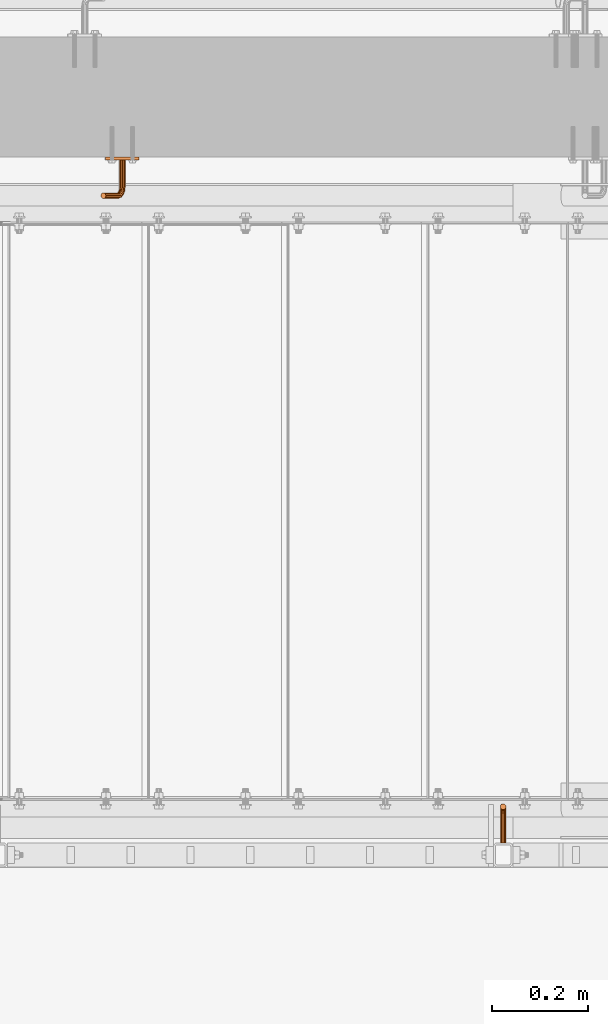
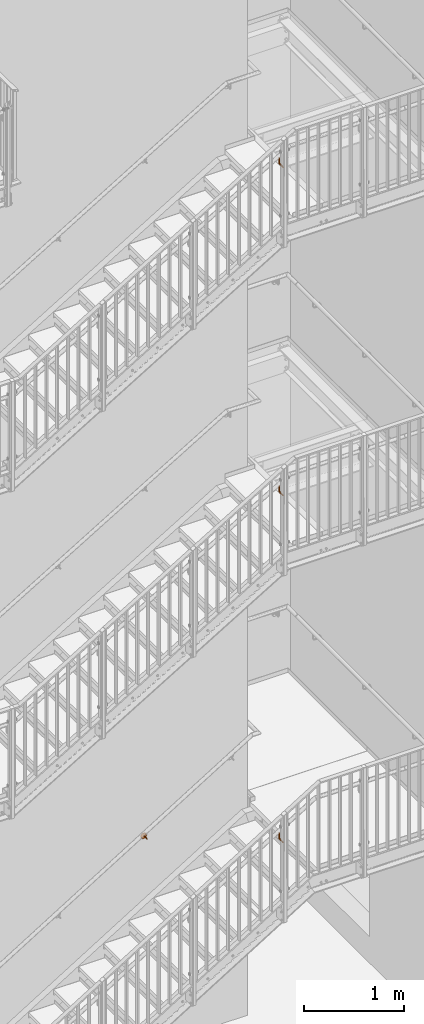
# One storey, part 383 of 410: 4 proxies.
"""IFC2X3 building model written with IfcOpenShell, lengths in millimetres."""

from ifc_helpers import new_model, entity, si_unit, converted_unit, origin_with_axes, place, context, project, spatial, faceted_brep, element, save


model = new_model("IFC2X3")

# Units and contexts
model_context = context("Model", 3, precision=1e-09, world=origin_with_axes())
ifc_project = project(units=[si_unit("LENGTHUNIT", "METRE", prefix="MILLI"), si_unit("AREAUNIT", "SQUARE_METRE"), si_unit("VOLUMEUNIT", "CUBIC_METRE"), converted_unit("PLANEANGLEUNIT", "DEGREE", entity("IfcPlaneAngleMeasure", 0.01745329), si_unit("PLANEANGLEUNIT", "RADIAN"), dimensions=[0, 0, 0, 0, 0, 0, 0])], contexts=[model_context])

# Site, building, storey
site_placement = place(None, origin_with_axes())
site = spatial("IfcSite", under=ifc_project, at=site_placement, Name="mKR Teilneubau & Sanierung BA1 - Ostfildern", CompositionType="ELEMENT")
building_placement = place(site_placement, origin_with_axes())
building = spatial("IfcBuilding", under=site, at=building_placement, Name="Struktur 1", CompositionType="ELEMENT")
storey_placement = place(building_placement, origin_with_axes())
storey = spatial("IfcBuildingStorey", under=building, at=storey_placement, Name="Default Storey", CompositionType="ELEMENT", Elevation=0.0)

# Proxies
proxy_1_placement = place(None, origin_with_axes())
element("IfcBuildingElementProxy", 1, at=proxy_1_placement, inside=storey, ObjectType="-", context=model_context, shape_type="Brep", body=[
    faceted_brep([(1359.805315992, 15430.999999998, 6578.654877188), (1362.001468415, 15430.999999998, 6576.458724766), (1365.001468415, 15430.999999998, 6575.654877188), (1368.001468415, 15430.999999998, 6576.458724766), (1370.197620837, 15430.999999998, 6578.654877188), (1371.001468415, 15430.999999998, 6581.654877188), (1370.197620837, 15430.999999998, 6584.654877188), (1368.001468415, 15430.999999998, 6586.851029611), (1365.001468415, 15430.999999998, 6587.654877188), (1362.001468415, 15430.999999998, 6586.851029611), (1359.805315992, 15430.999999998, 6584.654877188), (1359.001468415, 15430.999999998, 6581.654877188), (1368.001468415, 15487.999999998, 6586.851029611), (1370.197620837, 15487.999999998, 6584.654877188), (1362.001468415, 15487.999999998, 6586.851029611), (1359.805315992, 15487.999999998, 6584.654877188), (1365.001468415, 15487.999999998, 6587.654877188), (1370.197620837, 15493.740251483, 6585.796684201), (1368.001468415, 15492.899820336, 6587.825664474), (1359.001468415, 15487.999999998, 6581.654877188), (1365.001468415, 15492.592201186, 6588.568322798), (1371.001468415, 15487.999999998, 6581.654877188), (1368.001468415, 15497.053687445, 6590.601189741), (1365.001468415, 15496.485281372, 6591.169595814), (1362.001468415, 15492.899820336, 6587.825664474), (1359.805315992, 15493.740251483, 6585.796684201), (1368.001468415, 15499.829212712, 6594.75505685), (1365.001468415, 15499.086554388, 6595.062676), (1371.001468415, 15494.88830178, 6583.025045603), (1370.197620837, 15498.606601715, 6589.04827547), (1370.197620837, 15487.999999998, 6578.654877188), (1368.001468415, 15487.999999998, 6576.458724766), (1365.001468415, 15487.999999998, 6575.654877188), (1362.001468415, 15487.999999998, 6576.458724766), (1359.805315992, 15487.999999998, 6578.654877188), (1359.001468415, 15494.88830178, 6583.025045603), (1362.001468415, 15497.053687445, 6590.601189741), (1362.001468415, 15499.829212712, 6594.75505685), (1362.70536782, 15500.456722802, 6651.67007705), (1362.001468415, 15500.803847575, 6599.654877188), (1365.001468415, 15499.999999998, 6599.654877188), (1365.001468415, 15499.999999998, 6653.049713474), (1369.244109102, 15510.242640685, 6655.598949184), (1367.297569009, 15511.543277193, 6654.429349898), (1365.001468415, 15511.999999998, 6653.049713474), (1362.70536782, 15511.543277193, 6651.67007705), (1360.758827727, 15510.242640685, 6650.500477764), (1359.458191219, 15508.296100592, 6649.718976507), (1359.001468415, 15505.999999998, 6649.44454976), (1359.458191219, 15503.703899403, 6649.718976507), (1360.758827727, 15501.75735931, 6650.500477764), (1367.297569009, 15500.456722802, 6654.429349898), (1369.244109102, 15501.75735931, 6655.598949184), (1370.54474561, 15503.703899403, 6656.380450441), (1371.001468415, 15505.999999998, 6656.654877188), (1370.54474561, 15508.296100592, 6656.380450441), (1359.805315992, 15496.036352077, 6580.253407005), (1359.805315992, 15498.606601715, 6589.04827547), (1359.001468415, 15500.727922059, 6586.926955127), (1368.001468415, 15500.803847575, 6599.654877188), (1370.197620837, 15501.858192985, 6593.914625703), (1370.197620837, 15496.036352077, 6580.253407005), (1371.001468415, 15500.727922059, 6586.926955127), (1368.001468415, 15496.876783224, 6578.224426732), (1365.001468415, 15497.184402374, 6577.481768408), (1362.001468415, 15496.876783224, 6578.224426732), (1359.805315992, 15502.849242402, 6584.805634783), (1359.805315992, 15502.999999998, 6599.654877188), (1359.805315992, 15501.858192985, 6593.914625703), (1362.001468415, 15504.402156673, 6583.252720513), (1359.001468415, 15504.629831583, 6592.766575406), (1359.805315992, 15507.40147018, 6591.618525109), (1370.197620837, 15502.999999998, 6599.654877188), (1371.001468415, 15504.629831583, 6592.766575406), (1370.197620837, 15502.849242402, 6584.805634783), (1368.001468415, 15504.402156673, 6583.252720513), (1365.001468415, 15504.970562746, 6582.68431444), (1362.001468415, 15509.430450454, 6590.778093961), (1359.001468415, 15505.999999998, 6599.654877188), (1365.001468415, 15510.173108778, 6590.470474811), (1359.805315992, 15508.999999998, 6599.654877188), (1362.001468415, 15511.19615242, 6599.654877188), (1371.001468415, 15505.999999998, 6599.654877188), (1370.197620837, 15507.40147018, 6591.618525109), (1368.001468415, 15509.430450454, 6590.778093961), (1365.001468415, 15511.999999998, 6599.654877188), (1368.001468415, 15511.19615242, 6599.654877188), (1370.197620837, 15508.999999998, 6599.654877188)], [[[0, 1, 2, 3, 4, 5, 6, 7, 8, 9, 10, 11]], [[12, 7, 6, 13]], [[9, 14, 15, 10]], [[8, 16, 14, 9]], [[7, 12, 16, 8]], [[12, 13, 17, 18]], [[10, 15, 19, 11]], [[18, 20, 16, 12]], [[13, 6, 5, 21]], [[22, 23, 20, 18]], [[15, 14, 24, 25]], [[14, 16, 20, 24]], [[23, 22, 26, 27]], [[13, 21, 28, 17]], [[18, 17, 29, 22]], [[4, 30, 21, 5]], [[3, 31, 30, 4]], [[2, 32, 31, 3]], [[1, 33, 32, 2]], [[0, 34, 33, 1]], [[11, 19, 34, 0]], [[19, 15, 25, 35]], [[23, 36, 24, 20]], [[27, 37, 36, 23]], [[38, 39, 40]], [[40, 39, 37, 27]], [[41, 38, 40]], [[42, 43, 44, 45, 46, 47, 48, 49, 50, 38, 41, 51, 52, 53, 54, 55]], [[35, 56, 34, 19]], [[35, 25, 57, 58]], [[25, 24, 36, 57]], [[38, 50, 39]], [[27, 26, 59, 40]], [[22, 29, 60, 26]], [[21, 30, 61, 28]], [[17, 28, 62, 29]], [[51, 41, 40]], [[30, 31, 63, 61]], [[31, 32, 64, 63]], [[32, 33, 65, 64]], [[33, 34, 56, 65]], [[56, 35, 58, 66]], [[39, 67, 68, 37]], [[37, 68, 57, 36]], [[50, 67, 39]], [[51, 40, 59]], [[66, 69, 65, 56]], [[66, 58, 70, 71]], [[58, 57, 68, 70]], [[50, 49, 67]], [[26, 60, 72, 59]], [[29, 62, 73, 60]], [[28, 61, 74, 62]], [[52, 51, 59]], [[61, 63, 75, 74]], [[63, 64, 76, 75]], [[64, 65, 69, 76]], [[69, 66, 71, 77]], [[67, 78, 70, 68]], [[49, 78, 67]], [[52, 59, 72]], [[77, 79, 76, 69]], [[77, 71, 80, 81]], [[71, 70, 78, 80]], [[49, 48, 78]], [[60, 73, 82, 72]], [[62, 74, 83, 73]], [[53, 52, 72]], [[74, 75, 84, 83]], [[75, 76, 79, 84]], [[79, 77, 81, 85]], [[45, 44, 85]], [[48, 47, 78]], [[53, 72, 82]], [[85, 86, 84, 79]], [[44, 43, 85]], [[45, 85, 81]], [[46, 81, 80]], [[47, 80, 78]], [[73, 83, 87, 82]], [[54, 53, 82]], [[83, 84, 86, 87]], [[43, 86, 85]], [[46, 45, 81]], [[47, 46, 80]], [[54, 82, 55]], [[43, 42, 86]], [[55, 82, 87]], [[42, 87, 86]], [[42, 55, 87]]]),
])
proxy_2_placement = place(None, origin_with_axes())
element("IfcBuildingElementProxy", 2, at=proxy_2_placement, inside=storey, ObjectType="-", context=model_context, shape_type="Brep", body=[
    faceted_brep([(1359.805315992, 15430.999999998, 2567.245572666), (1362.001468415, 15430.999999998, 2565.049420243), (1365.001468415, 15430.999999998, 2564.245572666), (1368.001468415, 15430.999999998, 2565.049420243), (1370.197620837, 15430.999999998, 2567.245572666), (1371.001468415, 15430.999999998, 2570.245572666), (1370.197620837, 15430.999999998, 2573.245572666), (1368.001468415, 15430.999999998, 2575.441725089), (1365.001468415, 15430.999999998, 2576.245572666), (1362.001468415, 15430.999999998, 2575.441725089), (1359.805315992, 15430.999999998, 2573.245572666), (1359.001468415, 15430.999999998, 2570.245572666), (1368.001468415, 15487.999999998, 2575.441725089), (1370.197620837, 15487.999999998, 2573.245572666), (1362.001468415, 15487.999999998, 2575.441725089), (1359.805315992, 15487.999999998, 2573.245572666), (1365.001468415, 15487.999999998, 2576.245572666), (1370.197620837, 15493.740251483, 2574.387379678), (1368.001468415, 15492.899820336, 2576.416359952), (1359.001468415, 15487.999999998, 2570.245572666), (1365.001468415, 15492.592201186, 2577.159018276), (1371.001468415, 15487.999999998, 2570.245572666), (1368.001468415, 15497.053687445, 2579.191885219), (1365.001468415, 15496.485281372, 2579.760291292), (1362.001468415, 15492.899820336, 2576.416359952), (1359.805315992, 15493.740251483, 2574.387379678), (1368.001468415, 15499.829212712, 2583.345752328), (1365.001468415, 15499.086554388, 2583.653371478), (1371.001468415, 15494.888301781, 2571.615741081), (1370.197620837, 15498.606601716, 2577.638970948), (1370.197620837, 15487.999999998, 2567.245572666), (1368.001468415, 15487.999999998, 2565.049420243), (1365.001468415, 15487.999999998, 2564.245572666), (1362.001468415, 15487.999999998, 2565.049420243), (1359.805315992, 15487.999999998, 2567.245572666), (1359.001468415, 15494.888301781, 2571.615741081), (1362.001468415, 15497.053687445, 2579.191885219), (1362.001468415, 15499.829212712, 2583.345752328), (1362.70536782, 15500.456722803, 2640.260772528), (1362.001468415, 15500.803847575, 2588.245572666), (1365.001468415, 15499.999999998, 2588.245572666), (1365.001468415, 15499.999999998, 2641.640408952), (1369.244109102, 15510.242640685, 2644.189644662), (1367.297569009, 15511.543277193, 2643.020045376), (1365.001468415, 15511.999999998, 2641.640408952), (1362.70536782, 15511.543277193, 2640.260772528), (1360.758827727, 15510.242640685, 2639.091173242), (1359.45819122, 15508.296100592, 2638.309671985), (1359.001468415, 15505.999999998, 2638.035245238), (1359.45819122, 15503.703899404, 2638.309671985), (1360.758827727, 15501.757359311, 2639.091173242), (1367.297569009, 15500.456722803, 2643.020045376), (1369.244109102, 15501.757359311, 2644.189644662), (1370.54474561, 15503.703899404, 2644.971145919), (1371.001468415, 15505.999999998, 2645.245572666), (1370.54474561, 15508.296100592, 2644.971145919), (1359.805315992, 15496.036352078, 2568.844102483), (1359.805315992, 15498.606601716, 2577.638970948), (1359.001468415, 15500.727922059, 2575.517650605), (1368.001468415, 15500.803847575, 2588.245572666), (1370.197620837, 15501.858192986, 2582.505321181), (1370.197620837, 15496.036352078, 2568.844102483), (1371.001468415, 15500.727922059, 2575.517650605), (1368.001468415, 15496.876783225, 2566.81512221), (1365.001468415, 15497.184402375, 2566.072463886), (1362.001468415, 15496.876783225, 2566.81512221), (1359.805315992, 15502.849242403, 2573.396330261), (1359.805315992, 15502.999999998, 2588.245572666), (1359.805315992, 15501.858192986, 2582.505321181), (1362.001468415, 15504.402156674, 2571.843415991), (1359.001468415, 15504.629831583, 2581.357270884), (1359.805315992, 15507.401470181, 2580.209220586), (1370.197620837, 15502.999999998, 2588.245572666), (1371.001468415, 15504.629831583, 2581.357270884), (1370.197620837, 15502.849242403, 2573.396330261), (1368.001468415, 15504.402156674, 2571.843415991), (1365.001468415, 15504.970562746, 2571.275009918), (1362.001468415, 15509.430450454, 2579.368789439), (1359.001468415, 15505.999999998, 2588.245572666), (1365.001468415, 15510.173108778, 2579.061170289), (1359.805315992, 15508.999999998, 2588.245572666), (1362.001468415, 15511.196152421, 2588.245572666), (1371.001468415, 15505.999999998, 2588.245572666), (1370.197620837, 15507.401470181, 2580.209220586), (1368.001468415, 15509.430450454, 2579.368789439), (1365.001468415, 15511.999999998, 2588.245572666), (1368.001468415, 15511.196152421, 2588.245572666), (1370.197620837, 15508.999999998, 2588.245572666)], [[[0, 1, 2, 3, 4, 5, 6, 7, 8, 9, 10, 11]], [[12, 7, 6, 13]], [[9, 14, 15, 10]], [[8, 16, 14, 9]], [[7, 12, 16, 8]], [[12, 13, 17, 18]], [[10, 15, 19, 11]], [[18, 20, 16, 12]], [[13, 6, 5, 21]], [[22, 23, 20, 18]], [[15, 14, 24, 25]], [[14, 16, 20, 24]], [[23, 22, 26, 27]], [[13, 21, 28, 17]], [[18, 17, 29, 22]], [[4, 30, 21, 5]], [[3, 31, 30, 4]], [[2, 32, 31, 3]], [[1, 33, 32, 2]], [[0, 34, 33, 1]], [[11, 19, 34, 0]], [[19, 15, 25, 35]], [[23, 36, 24, 20]], [[27, 37, 36, 23]], [[38, 39, 40]], [[40, 39, 37, 27]], [[41, 38, 40]], [[42, 43, 44, 45, 46, 47, 48, 49, 50, 38, 41, 51, 52, 53, 54, 55]], [[35, 56, 34, 19]], [[35, 25, 57, 58]], [[25, 24, 36, 57]], [[38, 50, 39]], [[27, 26, 59, 40]], [[22, 29, 60, 26]], [[21, 30, 61, 28]], [[17, 28, 62, 29]], [[51, 41, 40]], [[30, 31, 63, 61]], [[31, 32, 64, 63]], [[32, 33, 65, 64]], [[33, 34, 56, 65]], [[56, 35, 58, 66]], [[39, 67, 68, 37]], [[37, 68, 57, 36]], [[50, 67, 39]], [[51, 40, 59]], [[66, 69, 65, 56]], [[66, 58, 70, 71]], [[58, 57, 68, 70]], [[50, 49, 67]], [[26, 60, 72, 59]], [[29, 62, 73, 60]], [[28, 61, 74, 62]], [[52, 51, 59]], [[61, 63, 75, 74]], [[63, 64, 76, 75]], [[64, 65, 69, 76]], [[69, 66, 71, 77]], [[67, 78, 70, 68]], [[49, 78, 67]], [[52, 59, 72]], [[77, 79, 76, 69]], [[77, 71, 80, 81]], [[71, 70, 78, 80]], [[49, 48, 78]], [[60, 73, 82, 72]], [[62, 74, 83, 73]], [[53, 52, 72]], [[74, 75, 84, 83]], [[75, 76, 79, 84]], [[79, 77, 81, 85]], [[45, 44, 85]], [[48, 47, 78]], [[53, 72, 82]], [[85, 86, 84, 79]], [[44, 43, 85]], [[45, 85, 81]], [[46, 81, 80]], [[47, 80, 78]], [[73, 83, 87, 82]], [[54, 53, 82]], [[83, 84, 86, 87]], [[43, 86, 85]], [[46, 45, 81]], [[47, 46, 80]], [[54, 82, 55]], [[43, 42, 86]], [[55, 82, 87]], [[42, 87, 86]], [[42, 55, 87]]]),
])
proxy_3_placement = place(None, origin_with_axes())
element("IfcBuildingElementProxy", 3, at=proxy_3_placement, inside=storey, ObjectType="-", context=model_context, shape_type="Brep", body=[
    faceted_brep([(1359.805315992, 15430.999999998, -1672.685461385), (1362.001468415, 15430.999999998, -1674.881613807), (1365.001468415, 15430.999999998, -1675.685461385), (1368.001468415, 15430.999999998, -1674.881613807), (1370.197620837, 15430.999999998, -1672.685461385), (1371.001468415, 15430.999999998, -1669.685461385), (1370.197620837, 15430.999999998, -1666.685461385), (1368.001468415, 15430.999999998, -1664.489308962), (1365.001468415, 15430.999999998, -1663.685461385), (1362.001468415, 15430.999999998, -1664.489308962), (1359.805315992, 15430.999999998, -1666.685461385), (1359.001468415, 15430.999999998, -1669.685461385), (1368.001468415, 15487.999999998, -1664.489308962), (1370.197620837, 15487.999999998, -1666.685461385), (1362.001468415, 15487.999999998, -1664.489308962), (1359.805315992, 15487.999999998, -1666.685461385), (1365.001468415, 15487.999999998, -1663.685461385), (1370.197620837, 15493.740251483, -1665.543654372), (1368.001468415, 15492.899820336, -1663.514674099), (1359.001468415, 15487.999999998, -1669.685461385), (1365.001468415, 15492.592201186, -1662.772015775), (1371.001468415, 15487.999999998, -1669.685461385), (1368.001468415, 15497.053687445, -1660.739148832), (1365.001468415, 15496.485281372, -1660.170742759), (1362.001468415, 15492.899820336, -1663.514674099), (1359.805315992, 15493.740251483, -1665.543654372), (1368.001468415, 15499.829212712, -1656.585281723), (1365.001468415, 15499.086554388, -1656.277662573), (1371.001468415, 15494.88830178, -1668.31529297), (1370.197620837, 15498.606601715, -1662.292063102), (1370.197620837, 15487.999999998, -1672.685461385), (1368.001468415, 15487.999999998, -1674.881613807), (1365.001468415, 15487.999999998, -1675.685461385), (1362.001468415, 15487.999999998, -1674.881613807), (1359.805315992, 15487.999999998, -1672.685461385), (1359.001468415, 15494.88830178, -1668.31529297), (1362.001468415, 15497.053687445, -1660.739148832), (1362.001468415, 15499.829212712, -1656.585281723), (1362.70536782, 15500.456722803, -1599.670261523), (1362.001468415, 15500.803847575, -1651.685461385), (1365.001468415, 15499.999999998, -1651.685461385), (1365.001468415, 15499.999999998, -1598.290625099), (1369.244109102, 15510.242640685, -1595.741389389), (1367.297569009, 15511.543277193, -1596.910988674), (1365.001468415, 15511.999999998, -1598.290625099), (1362.70536782, 15511.543277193, -1599.670261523), (1360.758827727, 15510.242640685, -1600.839860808), (1359.45819122, 15508.296100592, -1601.621362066), (1359.001468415, 15505.999999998, -1601.895788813), (1359.45819122, 15503.703899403, -1601.621362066), (1360.758827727, 15501.75735931, -1600.839860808), (1367.297569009, 15500.456722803, -1596.910988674), (1369.244109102, 15501.75735931, -1595.741389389), (1370.54474561, 15503.703899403, -1594.959888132), (1371.001468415, 15505.999999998, -1594.685461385), (1370.54474561, 15508.296100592, -1594.959888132), (1359.805315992, 15496.036352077, -1671.086931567), (1359.805315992, 15498.606601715, -1662.292063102), (1359.001468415, 15500.727922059, -1664.413383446), (1368.001468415, 15500.803847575, -1651.685461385), (1370.197620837, 15501.858192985, -1657.42571287), (1370.197620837, 15496.036352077, -1671.086931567), (1371.001468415, 15500.727922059, -1664.413383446), (1368.001468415, 15496.876783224, -1673.115911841), (1365.001468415, 15497.184402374, -1673.858570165), (1362.001468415, 15496.876783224, -1673.115911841), (1359.805315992, 15502.849242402, -1666.53470379), (1359.805315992, 15502.999999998, -1651.685461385), (1359.805315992, 15501.858192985, -1657.42571287), (1362.001468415, 15504.402156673, -1668.08761806), (1359.001468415, 15504.629831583, -1658.573763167), (1359.805315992, 15507.40147018, -1659.721813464), (1370.197620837, 15502.999999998, -1651.685461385), (1371.001468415, 15504.629831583, -1658.573763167), (1370.197620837, 15502.849242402, -1666.53470379), (1368.001468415, 15504.402156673, -1668.08761806), (1365.001468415, 15504.970562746, -1668.656024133), (1362.001468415, 15509.430450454, -1660.562244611), (1359.001468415, 15505.999999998, -1651.685461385), (1365.001468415, 15510.173108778, -1660.869863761), (1359.805315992, 15508.999999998, -1651.685461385), (1362.001468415, 15511.19615242, -1651.685461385), (1371.001468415, 15505.999999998, -1651.685461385), (1370.197620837, 15507.40147018, -1659.721813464), (1368.001468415, 15509.430450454, -1660.562244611), (1365.001468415, 15511.999999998, -1651.685461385), (1368.001468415, 15511.19615242, -1651.685461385), (1370.197620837, 15508.999999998, -1651.685461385)], [[[0, 1, 2, 3, 4, 5, 6, 7, 8, 9, 10, 11]], [[12, 7, 6, 13]], [[9, 14, 15, 10]], [[8, 16, 14, 9]], [[7, 12, 16, 8]], [[12, 13, 17, 18]], [[10, 15, 19, 11]], [[18, 20, 16, 12]], [[13, 6, 5, 21]], [[22, 23, 20, 18]], [[15, 14, 24, 25]], [[14, 16, 20, 24]], [[23, 22, 26, 27]], [[13, 21, 28, 17]], [[18, 17, 29, 22]], [[4, 30, 21, 5]], [[3, 31, 30, 4]], [[2, 32, 31, 3]], [[1, 33, 32, 2]], [[0, 34, 33, 1]], [[11, 19, 34, 0]], [[19, 15, 25, 35]], [[23, 36, 24, 20]], [[27, 37, 36, 23]], [[38, 39, 40]], [[40, 39, 37, 27]], [[41, 38, 40]], [[42, 43, 44, 45, 46, 47, 48, 49, 50, 38, 41, 51, 52, 53, 54, 55]], [[35, 56, 34, 19]], [[35, 25, 57, 58]], [[25, 24, 36, 57]], [[38, 50, 39]], [[27, 26, 59, 40]], [[22, 29, 60, 26]], [[21, 30, 61, 28]], [[17, 28, 62, 29]], [[51, 41, 40]], [[30, 31, 63, 61]], [[31, 32, 64, 63]], [[32, 33, 65, 64]], [[33, 34, 56, 65]], [[56, 35, 58, 66]], [[39, 67, 68, 37]], [[37, 68, 57, 36]], [[50, 67, 39]], [[51, 40, 59]], [[66, 69, 65, 56]], [[66, 58, 70, 71]], [[58, 57, 68, 70]], [[50, 49, 67]], [[26, 60, 72, 59]], [[29, 62, 73, 60]], [[28, 61, 74, 62]], [[52, 51, 59]], [[61, 63, 75, 74]], [[63, 64, 76, 75]], [[64, 65, 69, 76]], [[69, 66, 71, 77]], [[67, 78, 70, 68]], [[49, 78, 67]], [[52, 59, 72]], [[77, 79, 76, 69]], [[77, 71, 80, 81]], [[71, 70, 78, 80]], [[49, 48, 78]], [[60, 73, 82, 72]], [[62, 74, 83, 73]], [[53, 52, 72]], [[74, 75, 84, 83]], [[75, 76, 79, 84]], [[79, 77, 81, 85]], [[45, 44, 85]], [[48, 47, 78]], [[53, 72, 82]], [[85, 86, 84, 79]], [[44, 43, 85]], [[45, 85, 81]], [[46, 81, 80]], [[47, 80, 78]], [[73, 83, 87, 82]], [[54, 53, 82]], [[83, 84, 86, 87]], [[43, 86, 85]], [[46, 45, 81]], [[47, 46, 80]], [[54, 82, 55]], [[43, 42, 86]], [[55, 82, 87]], [[42, 87, 86]], [[42, 55, 87]]]),
])
proxy_4_placement = place(None, origin_with_axes())
element("IfcBuildingElementProxy", 4, at=proxy_4_placement, inside=storey, ObjectType="-", context=model_context, shape_type="Brep", body=[
    faceted_brep([(548.832746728, 16855.0, -2187.019671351), (548.832746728, 16849.0, -2187.019671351), (549.463309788, 16849.0, -2189.127329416), (549.463309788, 16855.0, -2189.127329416), (575.278698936, 16849.0, -2138.788432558), (563.868416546, 16849.0, -2140.386310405), (553.595204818, 16849.0, -2145.602523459), (545.572325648, 16849.0, -2153.871814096), (540.669182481, 16849.0, -2164.298076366), (539.41710696, 16849.0, -2175.751462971), (541.951780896, 16849.0, -2186.990821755), (547.998533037, 16849.0, -2196.798193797), (556.902103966, 16849.0, -2204.110798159), (567.697653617, 16849.0, -2208.136200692), (579.215316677, 16849.0, -2208.438186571), (590.206975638, 16849.0, -2204.98403094), (599.481513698, 16849.0, -2198.148045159), (606.033890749, 16849.0, -2188.671014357), (609.154055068, 16849.0, -2177.579921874), (608.503888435, 16849.0, -2166.076659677), (604.153846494, 16849.0, -2155.407784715), (596.575323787, 16849.0, -2146.729435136), (586.589570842, 16849.0, -2140.982044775), (591.393475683, 16849.0, -2160.778780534), (591.901221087, 16849.0, -2158.638213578), (593.411224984, 16849.0, -2157.038300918), (595.518883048, 16849.0, -2156.407737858), (597.659450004, 16849.0, -2156.915483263), (599.259362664, 16849.0, -2158.425487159), (599.889925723, 16849.0, -2160.533145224), (599.382180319, 16849.0, -2162.67371218), (597.872176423, 16849.0, -2164.27362484), (595.764518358, 16849.0, -2164.904187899), (593.623951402, 16849.0, -2164.396442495), (592.024038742, 16849.0, -2162.886438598), (549.340492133, 16849.0, -2184.879104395), (550.850496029, 16849.0, -2183.279191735), (552.958154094, 16849.0, -2182.648628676), (555.09872105, 16849.0, -2183.15637408), (556.69863371, 16849.0, -2184.666377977), (557.329196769, 16849.0, -2186.774036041), (556.821451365, 16849.0, -2188.914602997), (555.311447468, 16849.0, -2190.514515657), (553.203789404, 16849.0, -2191.145078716), (551.063222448, 16849.0, -2190.637333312), (549.340492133, 16855.0, -2184.879104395), (606.033890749, 16855.0, -2188.671014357), (599.481513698, 16855.0, -2198.148045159), (590.206975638, 16855.0, -2204.98403094), (579.215316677, 16855.0, -2208.438186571), (567.697653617, 16855.0, -2208.136200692), (556.902103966, 16855.0, -2204.110798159), (547.998533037, 16855.0, -2196.798193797), (541.951780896, 16855.0, -2186.990821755), (539.41710696, 16855.0, -2175.751462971), (540.669182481, 16855.0, -2164.298076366), (545.572325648, 16855.0, -2153.871814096), (553.595204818, 16855.0, -2145.602523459), (563.868416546, 16855.0, -2140.386310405), (575.278698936, 16855.0, -2138.788432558), (586.589570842, 16855.0, -2140.982044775), (596.575323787, 16855.0, -2146.729435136), (604.153846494, 16855.0, -2155.407784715), (608.503888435, 16855.0, -2166.076659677), (609.154055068, 16855.0, -2177.579921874), (551.063222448, 16855.0, -2190.637333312), (553.203789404, 16855.0, -2191.145078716), (555.311447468, 16855.0, -2190.514515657), (556.821451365, 16855.0, -2188.914602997), (557.329196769, 16855.0, -2186.774036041), (556.69863371, 16855.0, -2184.666377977), (555.09872105, 16855.0, -2183.15637408), (552.958154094, 16855.0, -2182.648628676), (550.850496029, 16855.0, -2183.279191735), (593.623951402, 16855.0, -2164.396442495), (595.764518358, 16855.0, -2164.904187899), (597.872176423, 16855.0, -2164.27362484), (599.382180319, 16855.0, -2162.67371218), (599.889925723, 16855.0, -2160.533145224), (599.259362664, 16855.0, -2158.425487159), (597.659450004, 16855.0, -2156.915483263), (595.518883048, 16855.0, -2156.407737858), (593.411224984, 16855.0, -2157.038300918), (591.901221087, 16855.0, -2158.638213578), (591.393475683, 16855.0, -2160.778780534), (592.024038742, 16855.0, -2162.886438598)], [[[0, 1, 2, 3]], [[4, 5, 6, 7, 8, 9, 10, 11, 12, 13, 14, 15, 16, 17, 18, 19, 20, 21, 22], [23, 24, 25, 26, 27, 28, 29, 30, 31, 32, 33, 34], [2, 1, 35, 36, 37, 38, 39, 40, 41, 42, 43, 44]], [[1, 0, 45, 35]], [[46, 47, 48, 49, 50, 51, 52, 53, 54, 55, 56, 57, 58, 59, 60, 61, 62, 63, 64], [0, 3, 65, 66, 67, 68, 69, 70, 71, 72, 73, 45], [74, 75, 76, 77, 78, 79, 80, 81, 82, 83, 84, 85]], [[3, 2, 44, 65]], [[10, 53, 52, 11]], [[65, 44, 43, 66]], [[35, 45, 73, 36]], [[53, 10, 9, 54]], [[66, 43, 42, 67]], [[11, 52, 51, 12]], [[36, 73, 72, 37]], [[8, 55, 54, 9]], [[67, 42, 41, 68]], [[55, 8, 7, 56]], [[50, 13, 12, 51]], [[37, 72, 71, 38]], [[13, 50, 49, 14]], [[68, 41, 40, 69]], [[38, 71, 70, 39]], [[56, 7, 6, 57]], [[69, 40, 39, 70]], [[14, 49, 48, 15]], [[57, 6, 5, 58]], [[34, 85, 84, 23]], [[15, 48, 47, 16]], [[85, 34, 33, 74]], [[23, 84, 83, 24]], [[58, 5, 4, 59]], [[16, 47, 46, 17]], [[74, 33, 32, 75]], [[24, 83, 82, 25]], [[59, 4, 22, 60]], [[17, 46, 64, 18]], [[75, 32, 31, 76]], [[25, 82, 81, 26]], [[60, 22, 21, 61]], [[18, 64, 63, 19]], [[76, 31, 30, 77]], [[20, 62, 61, 21]], [[26, 81, 80, 27]], [[62, 20, 19, 63]], [[77, 30, 29, 78]], [[27, 80, 79, 28]], [[78, 29, 28, 79]]]),
    faceted_brep([(579.4686237, 16793.0, -2170.627501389), (579.4686237, 16849.0, -2170.627501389), (577.209923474, 16849.0, -2168.495731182), (577.209923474, 16793.0, -2168.495731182), (569.337656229, 16772.0, -2155.727512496), (539.423040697, 16772.0, -2107.208281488), (537.553643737, 16769.803847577, -2108.360861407), (567.468259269, 16769.803847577, -2156.880092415), (570.021903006, 16775.0, -2155.305638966), (540.107287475, 16775.0, -2106.786407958), (572.126953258, 16771.569549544, -2164.436139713), (573.555276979, 16773.598529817, -2162.568172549), (574.534725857, 16849.0, -2179.773902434), (571.512748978, 16849.0, -2179.057085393), (569.254048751, 16849.0, -2176.925315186), (568.36384208, 16849.0, -2173.949797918), (569.080659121, 16849.0, -2170.927821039), (571.212429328, 16849.0, -2168.669120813), (574.187946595, 16849.0, -2167.778914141), (580.358830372, 16849.0, -2173.603018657), (579.642013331, 16849.0, -2176.624995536), (577.510243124, 16849.0, -2178.883695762), (580.358830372, 16793.0, -2173.603018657), (576.610682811, 16787.259748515, -2167.523808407), (578.749534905, 16786.111698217, -2169.461194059), (532.446356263, 16780.196152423, -2111.509768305), (530.576959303, 16778.0, -2112.662348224), (529.892712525, 16775.0, -2113.084221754), (530.576959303, 16772.0, -2112.662348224), (532.446356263, 16769.803847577, -2111.509768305), (535.0, 16769.0, -2109.935314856), (539.423040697, 16778.0, -2107.208281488), (537.553643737, 16780.196152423, -2108.360861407), (535.0, 16781.0, -2109.935314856), (573.637006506, 16776.370168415, -2161.169061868), (577.130803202, 16778.150757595, -2168.36740412), (576.701743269, 16780.272077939, -2166.139831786), (574.187946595, 16793.0, -2167.778914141), (579.519893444, 16784.96364792, -2172.242326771), (564.914615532, 16769.0, -2158.454545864), (569.337656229, 16778.0, -2155.727512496), (569.734753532, 16770.82689122, -2166.272443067), (576.076403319, 16776.597843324, -2170.841847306), (574.904189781, 16782.393398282, -2164.756006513), (573.676440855, 16788.100179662, -2166.949290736), (579.642013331, 16793.0, -2176.624995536), (572.350242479, 16779.141807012, -2160.613698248), (571.212429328, 16793.0, -2168.669120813), (578.715341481, 16784.123216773, -2175.12200428), (562.360971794, 16769.803847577, -2160.028999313), (567.468259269, 16780.196152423, -2156.880092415), (567.019665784, 16771.569549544, -2167.585046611), (573.821069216, 16776.029437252, -2172.900136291), (572.219795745, 16783.946312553, -2164.586723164), (570.733036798, 16788.407798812, -2167.891582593), (577.510243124, 16793.0, -2178.883695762), (570.039772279, 16781.170787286, -2161.050890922), (560.491574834, 16772.0, -2161.181579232), (569.080659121, 16793.0, -2170.927821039), (576.551458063, 16783.815597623, -2177.328619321), (564.914615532, 16781.0, -2158.454545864), (564.709195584, 16773.598529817, -2168.022239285), (570.969115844, 16776.597843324, -2173.990754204), (569.367842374, 16784.514718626, -2165.677341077), (568.56915338, 16788.100179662, -2170.098197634), (574.534725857, 16793.0, -2179.773902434), (567.324684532, 16781.91344561, -2162.363494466), (559.807328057, 16775.0, -2161.603452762), (568.36384208, 16793.0, -2173.949797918), (573.608054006, 16784.123216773, -2178.270911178), (562.360971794, 16780.196152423, -2160.028999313), (560.491574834, 16778.0, -2161.181579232), (563.422431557, 16776.370168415, -2167.466875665), (568.284721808, 16778.150757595, -2173.821470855), (567.11250827, 16783.946312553, -2167.735630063), (567.764601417, 16787.259748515, -2172.977875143), (569.254048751, 16793.0, -2176.925315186), (571.512748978, 16793.0, -2179.057085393), (564.932484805, 16781.170787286, -2164.19979782), (570.67381205, 16784.96364792, -2177.696393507), (563.504161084, 16779.141807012, -2166.067764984), (566.48716832, 16780.272077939, -2172.437645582), (568.534959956, 16786.111698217, -2175.759007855), (566.058108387, 16782.393398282, -2170.210073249)], [[[0, 1, 2, 3]], [[4, 5, 6, 7]], [[5, 4, 8, 9]], [[4, 7, 10, 11]], [[12, 13, 14, 15, 16, 17, 18, 2, 1, 19, 20, 21]], [[1, 0, 22, 19]], [[0, 3, 23, 24]], [[25, 26, 27, 28, 29, 30, 6, 5, 9, 31, 32, 33]], [[11, 34, 8, 4]], [[35, 36, 34, 11]], [[3, 2, 18, 37]], [[24, 38, 22, 0]], [[36, 35, 38, 24]], [[7, 6, 30, 39]], [[9, 8, 40, 31]], [[7, 39, 41, 10]], [[11, 10, 42, 35]], [[24, 23, 43, 36]], [[3, 37, 44, 23]], [[19, 22, 45, 20]], [[36, 43, 46, 34]], [[34, 46, 40, 8]], [[37, 18, 17, 47]], [[38, 48, 45, 22]], [[35, 42, 48, 38]], [[39, 30, 29, 49]], [[31, 40, 50, 32]], [[39, 49, 51, 41]], [[10, 41, 52, 42]], [[23, 44, 53, 43]], [[37, 47, 54, 44]], [[20, 45, 55, 21]], [[43, 53, 56, 46]], [[46, 56, 50, 40]], [[49, 29, 28, 57]], [[47, 17, 16, 58]], [[48, 59, 55, 45]], [[42, 52, 59, 48]], [[32, 50, 60, 33]], [[49, 57, 61, 51]], [[41, 51, 62, 52]], [[44, 54, 63, 53]], [[47, 58, 64, 54]], [[21, 55, 65, 12]], [[56, 66, 60, 50]], [[53, 63, 66, 56]], [[57, 28, 27, 67]], [[58, 16, 15, 68]], [[59, 69, 65, 55]], [[52, 62, 69, 59]], [[33, 60, 70, 25]], [[26, 71, 67, 27]], [[25, 70, 71, 26]], [[57, 67, 72, 61]], [[51, 61, 73, 62]], [[54, 64, 74, 63]], [[58, 68, 75, 64]], [[14, 76, 68, 15]], [[13, 77, 76, 14]], [[12, 65, 77, 13]], [[66, 78, 70, 60]], [[63, 74, 78, 66]], [[69, 79, 77, 65]], [[62, 73, 79, 69]], [[67, 71, 80, 72]], [[71, 70, 78, 80]], [[61, 72, 81, 73]], [[68, 76, 82, 75]], [[64, 75, 83, 74]], [[76, 77, 79, 82]], [[74, 83, 80, 78]], [[73, 81, 82, 79]], [[72, 80, 83, 81]], [[75, 82, 81, 83]]]),
])

save(model, "model.ifc")
